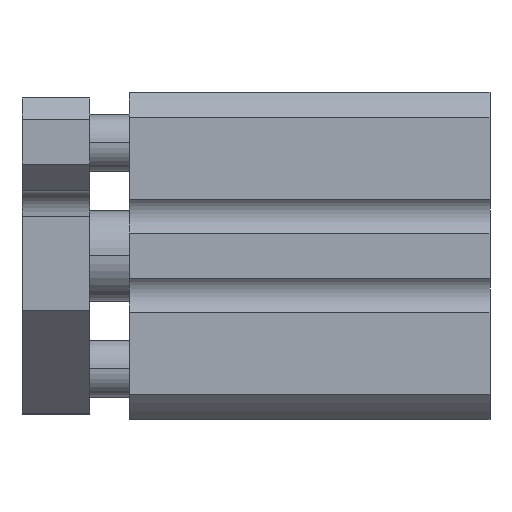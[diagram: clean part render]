
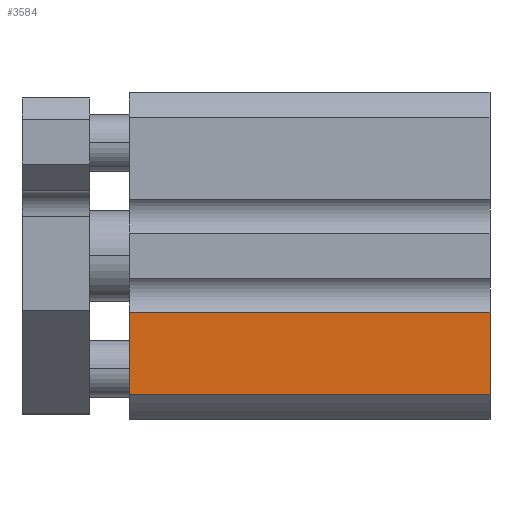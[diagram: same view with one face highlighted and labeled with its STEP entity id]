
A CAD part, top view. The second image highlights one B-rep face of the part: STEP entity #3584.
In plain terms, the highlighted planar face has unit normal (0, 0, 1).
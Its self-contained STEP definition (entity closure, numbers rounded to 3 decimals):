
#75 = LINE ( 'NONE', #1633, #4288 ) ;
#147 = CARTESIAN_POINT ( 'NONE',  ( 32., -5., 14.5 ) ) ;
#217 = EDGE_CURVE ( 'NONE', #1404, #3923, #3880, .T. ) ;
#229 = EDGE_LOOP ( 'NONE', ( #2466, #2551, #1028, #1170 ) ) ;
#274 = EDGE_CURVE ( 'NONE', #1763, #3908, #4184, .T. ) ;
#350 = DIRECTION ( 'NONE',  ( 0., -1., 0. ) ) ;
#427 = VECTOR ( 'NONE', #3834, 1000. ) ;
#570 = VECTOR ( 'NONE', #1208, 1000. ) ;
#670 = DIRECTION ( 'NONE',  ( 0., -1., 0. ) ) ;
#1028 = ORIENTED_EDGE ( 'NONE', *, *, #2634, .F. ) ;
#1065 = DIRECTION ( 'NONE',  ( 0., 0., -1. ) ) ;
#1078 = CARTESIAN_POINT ( 'NONE',  ( 32., -12.278, 14.5 ) ) ;
#1170 = ORIENTED_EDGE ( 'NONE', *, *, #217, .T. ) ;
#1184 = CARTESIAN_POINT ( 'NONE',  ( 32., -12.278, 14.5 ) ) ;
#1208 = DIRECTION ( 'NONE',  ( -1., 0., 0. ) ) ;
#1404 = VERTEX_POINT ( 'NONE', #147 ) ;
#1501 = FACE_OUTER_BOUND ( 'NONE', #229, .T. ) ;
#1505 = CARTESIAN_POINT ( 'NONE',  ( 32., -5., 14.5 ) ) ;
#1633 = CARTESIAN_POINT ( 'NONE',  ( 32., -5., 14.5 ) ) ;
#1666 = CARTESIAN_POINT ( 'NONE',  ( 0., -5., 14.5 ) ) ;
#1763 = VERTEX_POINT ( 'NONE', #1078 ) ;
#1992 = LINE ( 'NONE', #1666, #4155 ) ;
#2466 = ORIENTED_EDGE ( 'NONE', *, *, #3131, .T. ) ;
#2551 = ORIENTED_EDGE ( 'NONE', *, *, #274, .F. ) ;
#2634 = EDGE_CURVE ( 'NONE', #1404, #1763, #75, .T. ) ;
#3123 = DIRECTION ( 'NONE',  ( 0., -1., 0. ) ) ;
#3131 = EDGE_CURVE ( 'NONE', #3923, #3908, #1992, .T. ) ;
#3456 = PLANE ( 'NONE',  #3812 ) ;
#3584 = ADVANCED_FACE ( 'NONE', ( #1501 ), #3456, .F. ) ;
#3596 = CARTESIAN_POINT ( 'NONE',  ( 0., -12.278, 14.5 ) ) ;
#3812 = AXIS2_PLACEMENT_3D ( 'NONE', #4138, #1065, #3123 ) ;
#3834 = DIRECTION ( 'NONE',  ( -1., 0., 0. ) ) ;
#3880 = LINE ( 'NONE', #1505, #427 ) ;
#3908 = VERTEX_POINT ( 'NONE', #3596 ) ;
#3923 = VERTEX_POINT ( 'NONE', #3949 ) ;
#3949 = CARTESIAN_POINT ( 'NONE',  ( 0., -5., 14.5 ) ) ;
#4138 = CARTESIAN_POINT ( 'NONE',  ( 32., -5., 14.5 ) ) ;
#4155 = VECTOR ( 'NONE', #350, 1000. ) ;
#4184 = LINE ( 'NONE', #1184, #570 ) ;
#4288 = VECTOR ( 'NONE', #670, 1000. ) ;
